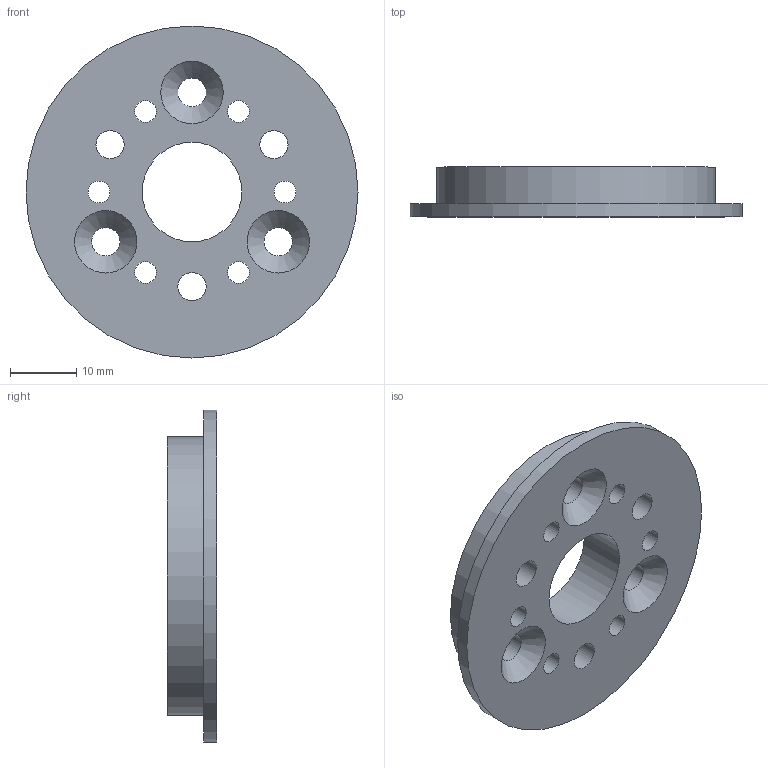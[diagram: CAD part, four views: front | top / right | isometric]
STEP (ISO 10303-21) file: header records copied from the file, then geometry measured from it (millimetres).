
FILE_DESCRIPTION(/* description */ (''),/* implementation_level */ '2;1');
FILE_NAME(/* name */ 'Hip pulley adapter v1.step',/* time_stamp */ '2025-10-21T12:08:54-07:00',/* author */ (''),/* organization */ (''),/* preprocessor_version */ 'ST-DEVELOPER v20.1',/* originating_system */ 'Autodesk Translation Framework v14.17.0.0',/* authorisation */ '');
FILE_SCHEMA (('AUTOMOTIVE_DESIGN { 1 0 10303 214 3 1 1 }'));
Length unit declared in the file: millimetre
Products named in the file (1): Hip pulley adapter
Bounding box: 50 x 7.5 x 50 mm (x, y, z)
Volume: 9006.9 mm3; surface area: 5727.7 mm2
Topology: 1 solids, 1 shells, 21 faces, 51 edges, 33 vertices
Faces by surface type: cylinder 15, plane 3, cone 3
Full cylindrical faces by diameter (mm): 3.3 x6, 4.25 x3, 4.3 x3, 15 x1, 42 x1, 50 x1
Entity records: 752 total; most frequent: DIRECTION 128, CARTESIAN_POINT 106, ORIENTED_EDGE 102, AXIS2_PLACEMENT_3D 55, EDGE_CURVE 51, EDGE_LOOP 48, CIRCLE 33, VERTEX_POINT 33
